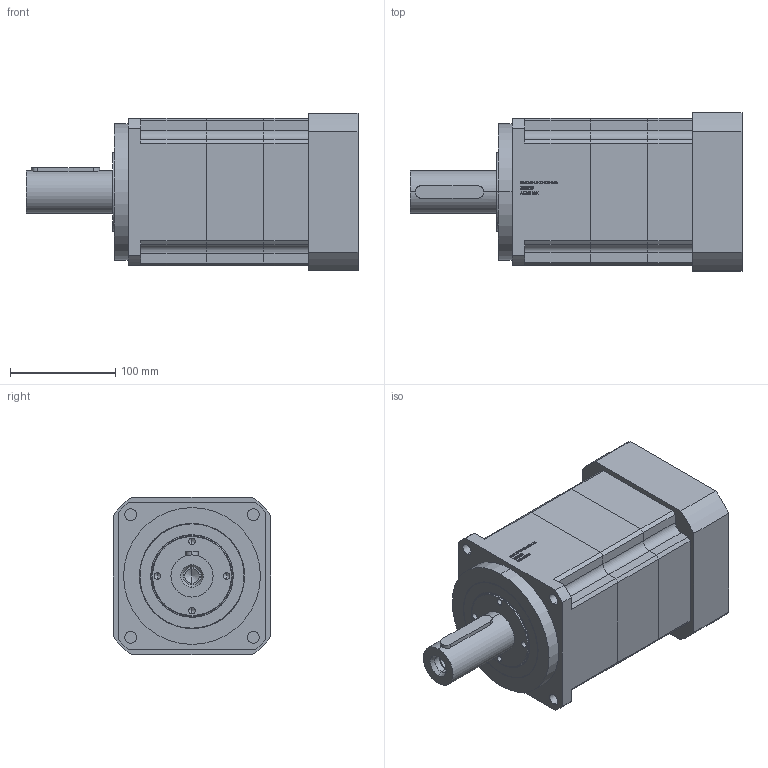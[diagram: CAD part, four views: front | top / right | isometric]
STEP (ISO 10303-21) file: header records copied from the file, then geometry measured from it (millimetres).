
FILE_DESCRIPTION (( 'STEP AP203' ), '1' );
FILE_NAME ('PAG140-L2-22-110-145.STEP', '2022-07-20T02:59:30', ( 'Windows User' ), ( 'P R C' ), 'SwSTEP 2.0', 'SolidWorks 2016', '' );
FILE_SCHEMA (( 'CONFIG_CONTROL_DESIGN' ));
Length unit declared in the file: millimetre
Products named in the file (9): TC70-95-8_TC-34.9-55-7; 囀鞠褒蹟佪-M10℅30; PAG140奻裔啣; PAG140-L2-22-110-145; PAG140二级齿圈; PAG140狟裔啣-22; PAG140 蟀諉啣 150選 110x10 145xM8 47L; 邧埴瑩 12x8x65; TC75-100-10_TC-34.9-55-7
Assembly tree (8 placements, depth 2):
  PAG140-L2-22-110-145
    PAG140奻裔啣
    PAG140二级齿圈
    PAG140狟裔啣-22
    PAG140 蟀諉啣 150選 110x10 145xM8 47L
    邧埴瑩 12x8x65
    TC75-100-10_TC-34.9-55-7
    TC70-95-8_TC-34.9-55-7
    囀鞠褒蹟佪-M10℅30
Bounding box: 315.5 x 150 x 150 mm (x, y, z)
Volume: 4074360 mm3; surface area: 381335.8 mm2
Topology: 8 solids, 8 shells, 951 faces, 2485 edges, 1624 vertices
Faces by surface type: plane 561, cylinder 180, bspline 168, cone 42
Entity records: 37983 total; most frequent: CARTESIAN_POINT 14357, ORIENTED_EDGE 4934, DIRECTION 4206, EDGE_CURVE 2467, LINE 1712, VECTOR 1712, VERTEX_POINT 1624, AXIS2_PLACEMENT_3D 1247
